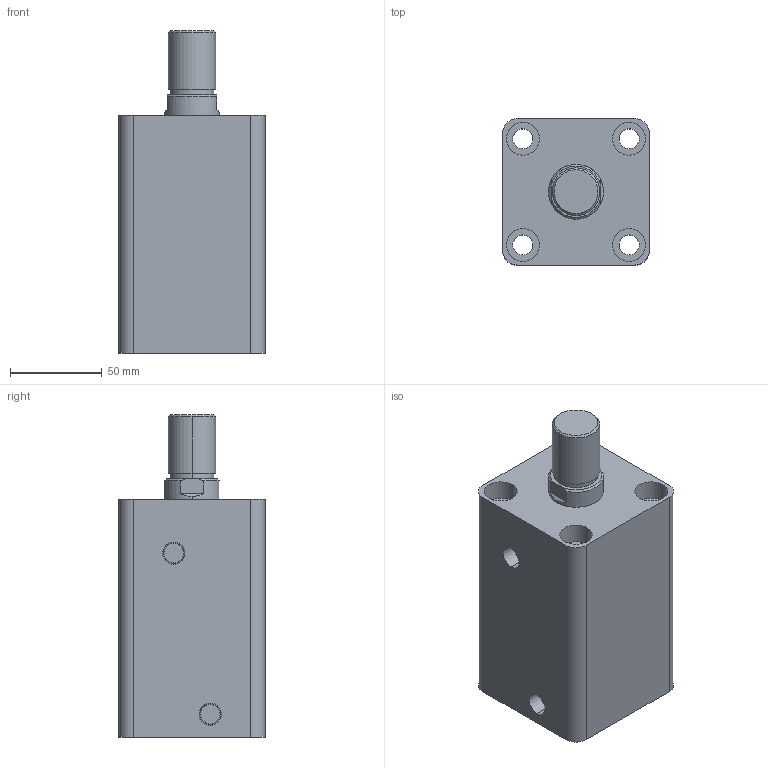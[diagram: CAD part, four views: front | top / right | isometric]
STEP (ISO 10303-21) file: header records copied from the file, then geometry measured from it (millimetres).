
FILE_DESCRIPTION (( 'STEP AP203' ), '1' );
FILE_NAME ('HTB-SD50-70W.STEP', '2019-10-07T07:12:38', ( '微软用户' ), ( '微软中国' ), 'SwSTEP 2.0', 'SolidWorks 2012', '' );
FILE_SCHEMA (( 'CONFIG_CONTROL_DESIGN' ));
Length unit declared in the file: millimetre
Products named in the file (3): HTB-SD50-70W; HTB-SD50-70W活塞杆; HTB-SD50-70掛极
Assembly tree (2 placements, depth 2):
  HTB-SD50-70W
    HTB-SD50-70掛极
    HTB-SD50-70W活塞杆
Bounding box: 80 x 80 x 176 mm (x, y, z)
Volume: 696850.5 mm3; surface area: 112220.9 mm2
Topology: 2 solids, 2 shells, 87 faces, 190 edges, 124 vertices
Faces by surface type: cylinder 44, plane 29, cone 8, torus 6
Entity records: 2761 total; most frequent: DIRECTION 478, CARTESIAN_POINT 434, ORIENTED_EDGE 380, AXIS2_PLACEMENT_3D 204, EDGE_CURVE 190, VERTEX_POINT 124, CIRCLE 112, EDGE_LOOP 112
